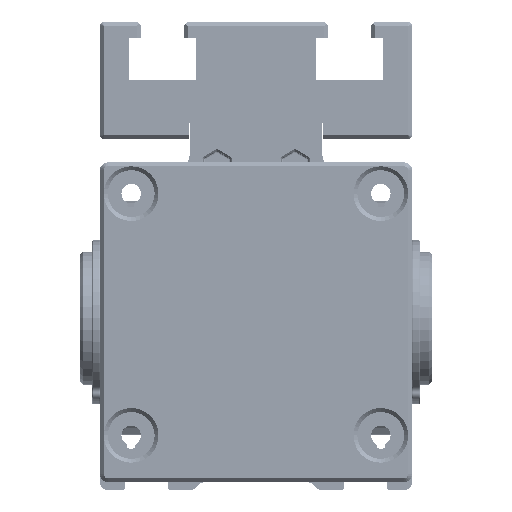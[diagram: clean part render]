
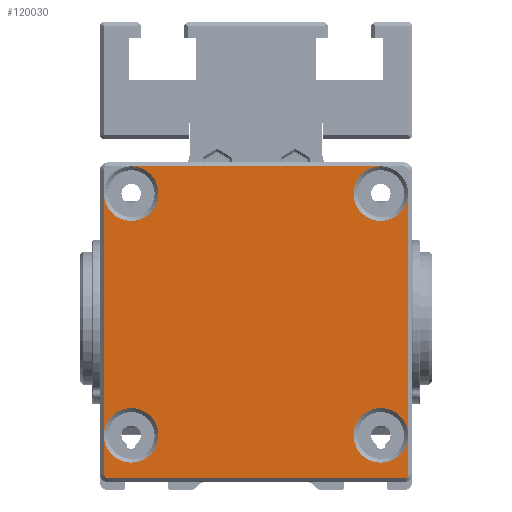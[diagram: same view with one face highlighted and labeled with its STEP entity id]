
A CAD part, front view. The second image highlights one B-rep face of the part: STEP entity #120030.
In plain terms, the highlighted planar face has unit normal (0, -1, 0) as drawn and (0, 0, 1) by its records, which use the part's own axes.
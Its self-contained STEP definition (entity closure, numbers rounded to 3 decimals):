
#575 = DIRECTION ( 'NONE',  ( 0., 0., 1. ) ) ;
#1642 = DIRECTION ( 'NONE',  ( 1., 0., 0. ) ) ;
#2257 = DIRECTION ( 'NONE',  ( -1., 0., 0. ) ) ;
#2332 = CARTESIAN_POINT ( 'NONE',  ( -19.5, 38., 346. ) ) ;
#2653 = DIRECTION ( 'NONE',  ( 1., 0., 0. ) ) ;
#7243 = VERTEX_POINT ( 'NONE', #27831 ) ;
#8780 = EDGE_CURVE ( 'NONE', #113748, #139911, #131566, .T. ) ;
#8830 = ORIENTED_EDGE ( 'NONE', *, *, #108356, .F. ) ;
#10728 = EDGE_CURVE ( 'NONE', #35683, #152753, #120542, .T. ) ;
#10745 = LINE ( 'NONE', #47288, #69229 ) ;
#10907 = DIRECTION ( 'NONE',  ( 0., 0., 1. ) ) ;
#11625 = VERTEX_POINT ( 'NONE', #24506 ) ;
#13313 = VERTEX_POINT ( 'NONE', #84817 ) ;
#14574 = DIRECTION ( 'NONE',  ( 0., 0., 1. ) ) ;
#15438 = CIRCLE ( 'NONE', #66270, 3.5 ) ;
#18666 = CARTESIAN_POINT ( 'NONE',  ( -16., 38., 346. ) ) ;
#19484 = CARTESIAN_POINT ( 'NONE',  ( 0., 1., 346. ) ) ;
#19788 = ORIENTED_EDGE ( 'NONE', *, *, #36112, .F. ) ;
#19889 = EDGE_LOOP ( 'NONE', ( #95001, #61028, #47803, #56438, #74176, #65324, #19788, #65639, #101589, #70740, #153182, #8830, #155564, #149202, #153358, #153559 ) ) ;
#21752 = DIRECTION ( 'NONE',  ( 0., 0., 1. ) ) ;
#23032 = CARTESIAN_POINT ( 'NONE',  ( 16., 7., 346. ) ) ;
#23207 = VERTEX_POINT ( 'NONE', #44944 ) ;
#24506 = CARTESIAN_POINT ( 'NONE',  ( 19., 1.5, 346. ) ) ;
#24718 = EDGE_CURVE ( 'NONE', #118398, #13313, #62417, .T. ) ;
#25165 = VERTEX_POINT ( 'NONE', #2332 ) ;
#25637 = CIRCLE ( 'NONE', #38403, 3.5 ) ;
#27831 = CARTESIAN_POINT ( 'NONE',  ( 19.5, 38., 346. ) ) ;
#28143 = EDGE_CURVE ( 'NONE', #139911, #113748, #15438, .T. ) ;
#29972 = AXIS2_PLACEMENT_3D ( 'NONE', #37130, #575, #145968 ) ;
#30765 = DIRECTION ( 'NONE',  ( 1., 0., 0. ) ) ;
#32821 = VERTEX_POINT ( 'NONE', #104180 ) ;
#33978 = DIRECTION ( 'NONE',  ( 1., 0., 0. ) ) ;
#34527 = AXIS2_PLACEMENT_3D ( 'NONE', #65631, #52929, #151404 ) ;
#35683 = VERTEX_POINT ( 'NONE', #70832 ) ;
#36112 = EDGE_CURVE ( 'NONE', #23207, #11625, #89772, .T. ) ;
#36135 = VECTOR ( 'NONE', #102737, 1000. ) ;
#36934 = DIRECTION ( 'NONE',  ( 0., 1., 0. ) ) ;
#37130 = CARTESIAN_POINT ( 'NONE',  ( 16., 7., 346. ) ) ;
#37510 = EDGE_CURVE ( 'NONE', #152826, #35683, #42152, .T. ) ;
#38403 = AXIS2_PLACEMENT_3D ( 'NONE', #64595, #14574, #2653 ) ;
#39722 = CARTESIAN_POINT ( 'NONE',  ( -12.5, 38., 346. ) ) ;
#40371 = DIRECTION ( 'NONE',  ( -1., 0., 0. ) ) ;
#41773 = DIRECTION ( 'NONE',  ( 1., 0., 0. ) ) ;
#42152 = CIRCLE ( 'NONE', #128498, 3.5 ) ;
#44944 = CARTESIAN_POINT ( 'NONE',  ( 19.5, 2., 346. ) ) ;
#46901 = DIRECTION ( 'NONE',  ( 0., 0., 1. ) ) ;
#47288 = CARTESIAN_POINT ( 'NONE',  ( 19.5, 4.5, 346. ) ) ;
#47803 = ORIENTED_EDGE ( 'NONE', *, *, #90659, .F. ) ;
#48121 = CARTESIAN_POINT ( 'NONE',  ( -19.5, 2., 346. ) ) ;
#48236 = CARTESIAN_POINT ( 'NONE',  ( 16., 38., 346. ) ) ;
#48853 = CARTESIAN_POINT ( 'NONE',  ( 19.5, 22.5, 346. ) ) ;
#49552 = LINE ( 'NONE', #97965, #128675 ) ;
#50240 = EDGE_CURVE ( 'NONE', #32821, #11625, #49552, .T. ) ;
#51714 = AXIS2_PLACEMENT_3D ( 'NONE', #140180, #21752, #143321 ) ;
#52929 = DIRECTION ( 'NONE',  ( 0., 0., 1. ) ) ;
#53053 = CARTESIAN_POINT ( 'NONE',  ( 19., 2., 346. ) ) ;
#55821 = AXIS2_PLACEMENT_3D ( 'NONE', #85796, #111212, #1642 ) ;
#56438 = ORIENTED_EDGE ( 'NONE', *, *, #62579, .F. ) ;
#59365 = DIRECTION ( 'NONE',  ( 1., 0., 0. ) ) ;
#61028 = ORIENTED_EDGE ( 'NONE', *, *, #24718, .F. ) ;
#61818 = EDGE_CURVE ( 'NONE', #23207, #113748, #10745, .T. ) ;
#62417 = CIRCLE ( 'NONE', #34527, 3.5 ) ;
#62579 = EDGE_CURVE ( 'NONE', #99782, #13313, #138540, .T. ) ;
#63423 = DIRECTION ( 'NONE',  ( 0., 0., -1. ) ) ;
#63446 = CIRCLE ( 'NONE', #55821, 3.5 ) ;
#64595 = CARTESIAN_POINT ( 'NONE',  ( -16., 38., 346. ) ) ;
#64756 = VERTEX_POINT ( 'NONE', #131716 ) ;
#65324 = ORIENTED_EDGE ( 'NONE', *, *, #50240, .T. ) ;
#65631 = CARTESIAN_POINT ( 'NONE',  ( -16., 7., 346. ) ) ;
#65639 = ORIENTED_EDGE ( 'NONE', *, *, #61818, .T. ) ;
#66253 = CARTESIAN_POINT ( 'NONE',  ( -19.5, 4.5, 346. ) ) ;
#66270 = AXIS2_PLACEMENT_3D ( 'NONE', #23032, #46901, #117568 ) ;
#67143 = DIRECTION ( 'NONE',  ( 1., 0., 0. ) ) ;
#69229 = VECTOR ( 'NONE', #156892, 1000. ) ;
#70740 = ORIENTED_EDGE ( 'NONE', *, *, #8780, .F. ) ;
#70832 = CARTESIAN_POINT ( 'NONE',  ( -16., 41.5, 346. ) ) ;
#71249 = DIRECTION ( 'NONE',  ( 0., 1., 0. ) ) ;
#72583 = CARTESIAN_POINT ( 'NONE',  ( 19.5, 7., 346. ) ) ;
#74176 = ORIENTED_EDGE ( 'NONE', *, *, #150936, .F. ) ;
#75009 = CIRCLE ( 'NONE', #87712, 0.5 ) ;
#77329 = AXIS2_PLACEMENT_3D ( 'NONE', #48236, #10907, #59365 ) ;
#84817 = CARTESIAN_POINT ( 'NONE',  ( -19.5, 7., 346. ) ) ;
#85796 = CARTESIAN_POINT ( 'NONE',  ( -16., 7., 346. ) ) ;
#87456 = CIRCLE ( 'NONE', #77329, 3.5 ) ;
#87712 = AXIS2_PLACEMENT_3D ( 'NONE', #100679, #149189, #40371 ) ;
#87844 = FACE_OUTER_BOUND ( 'NONE', #19889, .T. ) ;
#89772 = CIRCLE ( 'NONE', #148195, 0.5 ) ;
#90659 = EDGE_CURVE ( 'NONE', #13313, #118398, #63446, .T. ) ;
#95001 = ORIENTED_EDGE ( 'NONE', *, *, #97018, .F. ) ;
#97018 = EDGE_CURVE ( 'NONE', #13313, #25165, #145911, .T. ) ;
#97965 = CARTESIAN_POINT ( 'NONE',  ( 0., 1.5, 346. ) ) ;
#98057 = LINE ( 'NONE', #48853, #98456 ) ;
#98456 = VECTOR ( 'NONE', #36934, 1000. ) ;
#99782 = VERTEX_POINT ( 'NONE', #48121 ) ;
#100679 = CARTESIAN_POINT ( 'NONE',  ( -19., 2., 346. ) ) ;
#101589 = ORIENTED_EDGE ( 'NONE', *, *, #28143, .F. ) ;
#102737 = DIRECTION ( 'NONE',  ( 0., 1., 0. ) ) ;
#104180 = CARTESIAN_POINT ( 'NONE',  ( -19., 1.5, 346. ) ) ;
#108356 = EDGE_CURVE ( 'NONE', #64756, #7243, #135442, .T. ) ;
#111212 = DIRECTION ( 'NONE',  ( 0., 0., 1. ) ) ;
#113748 = VERTEX_POINT ( 'NONE', #72583 ) ;
#117568 = DIRECTION ( 'NONE',  ( 1., 0., 0. ) ) ;
#117739 = AXIS2_PLACEMENT_3D ( 'NONE', #19484, #152134, #41773 ) ;
#118398 = VERTEX_POINT ( 'NONE', #119655 ) ;
#119655 = CARTESIAN_POINT ( 'NONE',  ( -12.5, 7., 346. ) ) ;
#120030 = ADVANCED_FACE ( 'NONE', ( #87844 ), #124443, .T. ) ;
#120542 = LINE ( 'NONE', #155484, #140861 ) ;
#123400 = VECTOR ( 'NONE', #71249, 1000. ) ;
#124443 = PLANE ( 'NONE',  #117739 ) ;
#127761 = EDGE_CURVE ( 'NONE', #113748, #7243, #98057, .T. ) ;
#128498 = AXIS2_PLACEMENT_3D ( 'NONE', #18666, #153658, #67143 ) ;
#128675 = VECTOR ( 'NONE', #30765, 1000. ) ;
#131566 = CIRCLE ( 'NONE', #29972, 3.5 ) ;
#131716 = CARTESIAN_POINT ( 'NONE',  ( 12.5, 38., 346. ) ) ;
#132222 = CARTESIAN_POINT ( 'NONE',  ( 12.5, 7., 346. ) ) ;
#135076 = CARTESIAN_POINT ( 'NONE',  ( 16., 41.5, 346. ) ) ;
#135442 = CIRCLE ( 'NONE', #51714, 3.5 ) ;
#135702 = EDGE_CURVE ( 'NONE', #25165, #152826, #25637, .T. ) ;
#138540 = LINE ( 'NONE', #66253, #36135 ) ;
#139911 = VERTEX_POINT ( 'NONE', #132222 ) ;
#140180 = CARTESIAN_POINT ( 'NONE',  ( 16., 38., 346. ) ) ;
#140861 = VECTOR ( 'NONE', #33978, 1000. ) ;
#143321 = DIRECTION ( 'NONE',  ( 1., 0., 0. ) ) ;
#145911 = LINE ( 'NONE', #157031, #123400 ) ;
#145968 = DIRECTION ( 'NONE',  ( 1., 0., 0. ) ) ;
#148195 = AXIS2_PLACEMENT_3D ( 'NONE', #53053, #63423, #2257 ) ;
#149189 = DIRECTION ( 'NONE',  ( 0., 0., -1. ) ) ;
#149202 = ORIENTED_EDGE ( 'NONE', *, *, #10728, .F. ) ;
#150936 = EDGE_CURVE ( 'NONE', #32821, #99782, #75009, .T. ) ;
#151404 = DIRECTION ( 'NONE',  ( 1., 0., 0. ) ) ;
#152134 = DIRECTION ( 'NONE',  ( 0., 0., 1. ) ) ;
#152753 = VERTEX_POINT ( 'NONE', #135076 ) ;
#152826 = VERTEX_POINT ( 'NONE', #39722 ) ;
#153182 = ORIENTED_EDGE ( 'NONE', *, *, #127761, .T. ) ;
#153358 = ORIENTED_EDGE ( 'NONE', *, *, #37510, .F. ) ;
#153559 = ORIENTED_EDGE ( 'NONE', *, *, #135702, .F. ) ;
#153658 = DIRECTION ( 'NONE',  ( 0., 0., 1. ) ) ;
#155484 = CARTESIAN_POINT ( 'NONE',  ( 0., 41.5, 346. ) ) ;
#155564 = ORIENTED_EDGE ( 'NONE', *, *, #157102, .F. ) ;
#156892 = DIRECTION ( 'NONE',  ( 0., 1., 0. ) ) ;
#157031 = CARTESIAN_POINT ( 'NONE',  ( -19.5, 22.5, 346. ) ) ;
#157102 = EDGE_CURVE ( 'NONE', #152753, #64756, #87456, .T. ) ;
